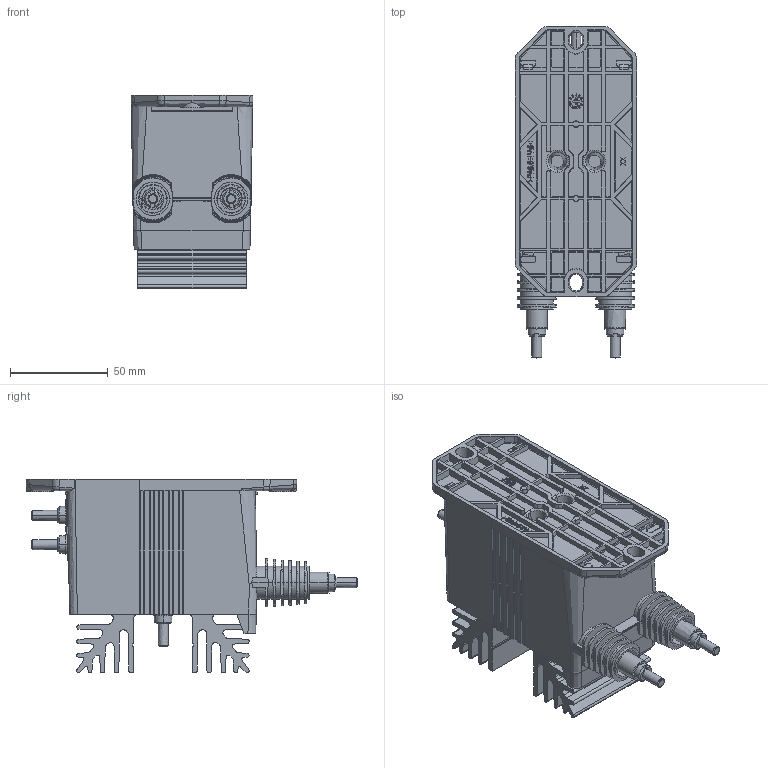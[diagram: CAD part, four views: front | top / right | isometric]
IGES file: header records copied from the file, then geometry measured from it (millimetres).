
Start section: Elysium IGES Interface
Global section: file name: C:\Users\lko\Desktop\BLACKBOX LV 100-5000_SP1\90.24.75.001.0.igs; native system: Creo Elements/Direct Modeling 20.1  10-Mar-2018; preprocessor: Creo Element/Direct IGES_3D V2.2; author: Unknown; organization: Unknown; date: 20210716.094846; units: millimetre
Bounding box: 62.24 x 169.5 x 99 mm (x, y, z)
Volume: 461949.4 mm3; surface area: 90671.9 mm2
Topology: 1 solids, 1 shells, 1772 faces, 4938 edges, 3227 vertices
Faces by surface type: bspline 1772
